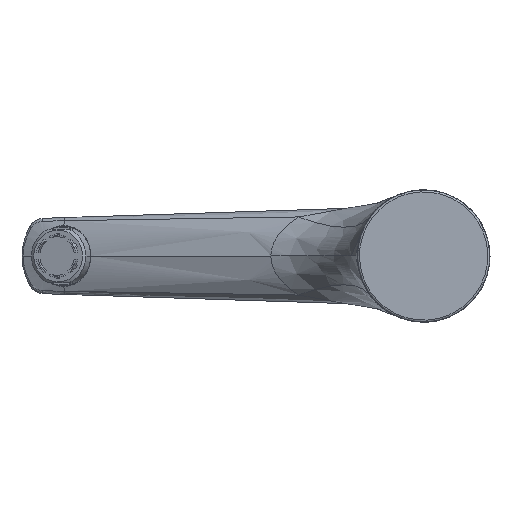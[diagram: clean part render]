
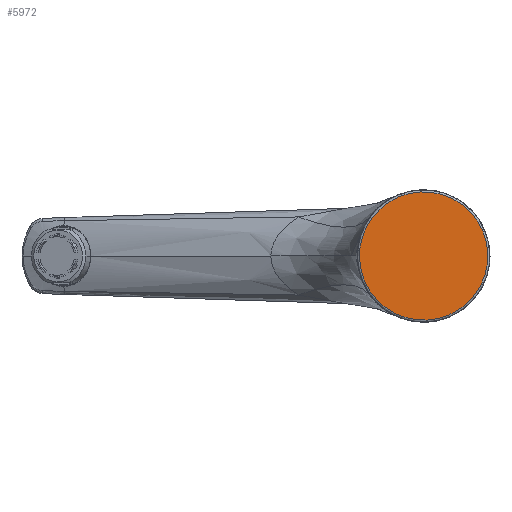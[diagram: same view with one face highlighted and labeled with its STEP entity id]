
A CAD part, front view. The second image highlights one B-rep face of the part: STEP entity #5972.
In plain terms, the highlighted planar face has unit normal (0, -1, 0).
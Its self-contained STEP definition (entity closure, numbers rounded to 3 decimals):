
#403=CARTESIAN_POINT('',(0.,0.2,0.));
#404=DIRECTION('',(0.,-1.,0.));
#405=DIRECTION('',(0.052,0.,-0.999));
#406=AXIS2_PLACEMENT_3D('',#403,#404,#405);
#408=CARTESIAN_POINT('',(0.,0.2,0.));
#409=DIRECTION('',(0.,-1.,0.));
#410=DIRECTION('',(-0.052,0.,0.999));
#411=AXIS2_PLACEMENT_3D('',#408,#409,#410);
#5137=CARTESIAN_POINT('',(1.392,0.2,
-26.561));
#5138=CARTESIAN_POINT('',(-1.392,0.2,
26.561));
#5139=VERTEX_POINT('',#5137);
#5140=VERTEX_POINT('',#5138);
#5962=CARTESIAN_POINT('',(0.,0.2,0.));
#5963=DIRECTION('',(0.,1.,0.));
#5964=DIRECTION('',(-0.052,0.,0.999));
#5965=AXIS2_PLACEMENT_3D('',#5962,#5963,#5964);
#5966=PLANE('',#5965);
#5967=ORIENTED_EDGE('',*,*,#5940,.F.);
#5969=ORIENTED_EDGE('',*,*,#5968,.F.);
#5970=EDGE_LOOP('',(#5967,#5969));
#5971=FACE_OUTER_BOUND('',#5970,.F.);
#407=CIRCLE('',#406,26.597);
#412=CIRCLE('',#411,26.597);
#5940=EDGE_CURVE('',#5139,#5140,#407,.T.);
#5968=EDGE_CURVE('',#5140,#5139,#412,.T.);
#5972=ADVANCED_FACE('',(#5971),#5966,.F.);
